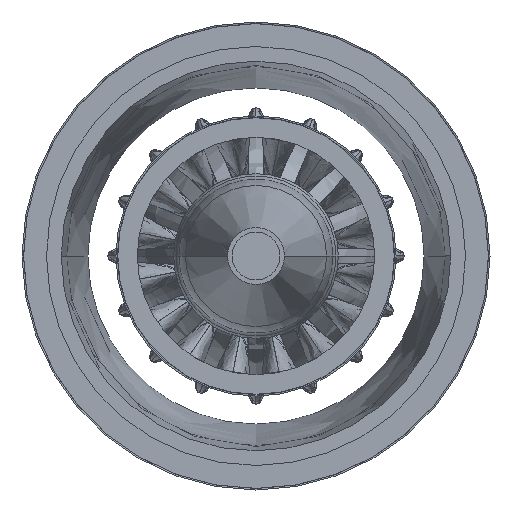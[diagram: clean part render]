
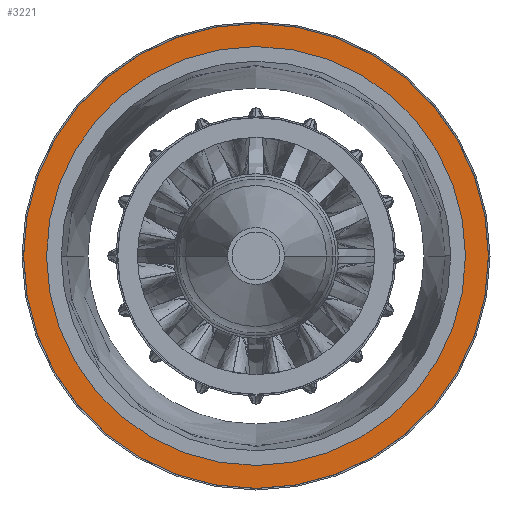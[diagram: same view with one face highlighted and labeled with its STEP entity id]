
A CAD part, left-side view. The second image highlights one B-rep face of the part: STEP entity #3221.
In plain terms, the highlighted planar face has unit normal (-1, 0, 0).
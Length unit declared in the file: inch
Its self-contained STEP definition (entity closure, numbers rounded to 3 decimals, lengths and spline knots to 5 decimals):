
#1100 = ORIENTED_EDGE ( 'NONE', *, *, #61736, .T. ) ;
#2261 = CIRCLE ( 'NONE', #27200, 5.5329 ) ;
#3110 = ORIENTED_EDGE ( 'NONE', *, *, #80423, .F. ) ;
#3221 = ADVANCED_FACE ( 'NONE', ( #94804, #64042 ), #42973, .T. ) ;
#6916 = CARTESIAN_POINT ( 'NONE',  ( -32.04609, 0.00369, 5.53289 ) ) ;
#7553 = CARTESIAN_POINT ( 'NONE',  ( -32.04609, -0.0041, -6.13918 ) ) ;
#9994 = VERTEX_POINT ( 'NONE', #7553 ) ;
#10633 = AXIS2_PLACEMENT_3D ( 'NONE', #28327, #87964, #20974 ) ;
#12412 = DIRECTION ( 'NONE',  ( 1., 0., 0. ) ) ;
#20974 = DIRECTION ( 'NONE',  ( 0., 0.001, 1. ) ) ;
#21384 = CARTESIAN_POINT ( 'NONE',  ( -32.04609, 0., 0. ) ) ;
#22105 = VERTEX_POINT ( 'NONE', #65654 ) ;
#27200 = AXIS2_PLACEMENT_3D ( 'NONE', #51318, #73801, #66468 ) ;
#28327 = CARTESIAN_POINT ( 'NONE',  ( -32.04609, 5.53289, -0.00369 ) ) ;
#38677 = CARTESIAN_POINT ( 'NONE',  ( -32.04609, 0., 0. ) ) ;
#42806 = EDGE_LOOP ( 'NONE', ( #1100, #59048 ) ) ;
#42973 = PLANE ( 'NONE',  #10633 ) ;
#44593 = DIRECTION ( 'NONE',  ( 1., 0., 0. ) ) ;
#48621 = DIRECTION ( 'NONE',  ( 0., -0.001, -1. ) ) ;
#51318 = CARTESIAN_POINT ( 'NONE',  ( -32.04609, 0., 0. ) ) ;
#51873 = ORIENTED_EDGE ( 'NONE', *, *, #56013, .F. ) ;
#52569 = VERTEX_POINT ( 'NONE', #6916 ) ;
#55483 = CARTESIAN_POINT ( 'NONE',  ( -32.04609, 0.0041, 6.13918 ) ) ;
#56013 = EDGE_CURVE ( 'NONE', #80340, #9994, #82658, .T. ) ;
#59048 = ORIENTED_EDGE ( 'NONE', *, *, #80710, .T. ) ;
#59314 = AXIS2_PLACEMENT_3D ( 'NONE', #21384, #86884, #81040 ) ;
#61736 = EDGE_CURVE ( 'NONE', #22105, #52569, #93744, .T. ) ;
#64042 = FACE_OUTER_BOUND ( 'NONE', #72028, .T. ) ;
#65654 = CARTESIAN_POINT ( 'NONE',  ( -32.04609, -0.00369, -5.53289 ) ) ;
#66468 = DIRECTION ( 'NONE',  ( 0., -0.001, -1. ) ) ;
#72028 = EDGE_LOOP ( 'NONE', ( #3110, #51873 ) ) ;
#72089 = CARTESIAN_POINT ( 'NONE',  ( -32.04609, 0., 0. ) ) ;
#73801 = DIRECTION ( 'NONE',  ( 1., 0., 0. ) ) ;
#79738 = AXIS2_PLACEMENT_3D ( 'NONE', #38677, #44593, #81764 ) ;
#80340 = VERTEX_POINT ( 'NONE', #55483 ) ;
#80423 = EDGE_CURVE ( 'NONE', #9994, #80340, #92824, .T. ) ;
#80710 = EDGE_CURVE ( 'NONE', #52569, #22105, #2261, .T. ) ;
#81040 = DIRECTION ( 'NONE',  ( 0., -0.001, -1. ) ) ;
#81764 = DIRECTION ( 'NONE',  ( 0., -0.001, -1. ) ) ;
#82658 = CIRCLE ( 'NONE', #59314, 6.13918 ) ;
#86884 = DIRECTION ( 'NONE',  ( 1., 0., 0. ) ) ;
#87964 = DIRECTION ( 'NONE',  ( -1., 0., 0. ) ) ;
#92824 = CIRCLE ( 'NONE', #94353, 6.13918 ) ;
#93744 = CIRCLE ( 'NONE', #79738, 5.5329 ) ;
#94353 = AXIS2_PLACEMENT_3D ( 'NONE', #72089, #12412, #48621 ) ;
#94804 = FACE_BOUND ( 'NONE', #42806, .T. ) ;
